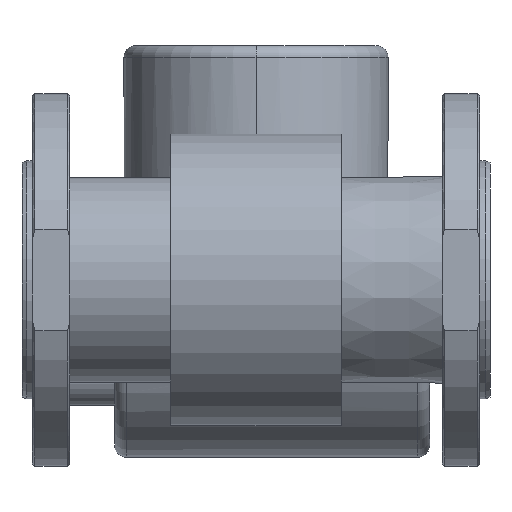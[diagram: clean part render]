
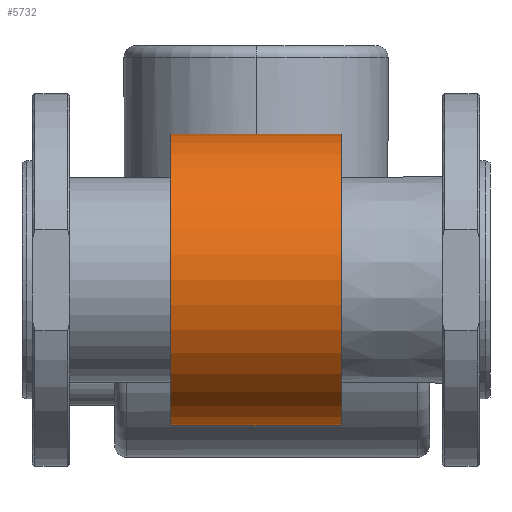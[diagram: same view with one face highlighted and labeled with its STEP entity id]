
A CAD part, front view. The second image highlights one B-rep face of the part: STEP entity #5732.
In plain terms, the highlighted cylindrical face has radius 62.5 mm (diameter 125 mm), a partial arc.
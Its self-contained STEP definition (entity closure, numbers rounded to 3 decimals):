
#489 = EDGE_CURVE ( 'NONE', #9082, #4652, #2526, .T. ) ;
#608 = AXIS2_PLACEMENT_3D ( 'NONE', #6694, #1731, #3796 ) ;
#621 = CARTESIAN_POINT ( 'NONE',  ( 36.5, 0., -62.5 ) ) ;
#846 = CARTESIAN_POINT ( 'NONE',  ( 36.5, 0., 0. ) ) ;
#912 = VERTEX_POINT ( 'NONE', #621 ) ;
#990 = CARTESIAN_POINT ( 'NONE',  ( 112.963, 0., 62.5 ) ) ;
#1078 = CARTESIAN_POINT ( 'NONE',  ( 112.963, 0., -62.5 ) ) ;
#1731 = DIRECTION ( 'NONE',  ( 1., 0., 0. ) ) ;
#2332 = EDGE_CURVE ( 'NONE', #2969, #912, #7594, .T. ) ;
#2526 = CIRCLE ( 'NONE', #608, 62.5 ) ;
#2600 = FACE_OUTER_BOUND ( 'NONE', #6682, .T. ) ;
#2969 = VERTEX_POINT ( 'NONE', #6611 ) ;
#3042 = DIRECTION ( 'NONE',  ( 0., 0., -1. ) ) ;
#3065 = VECTOR ( 'NONE', #6372, 1000. ) ;
#3230 = DIRECTION ( 'NONE',  ( 0., 0., -1. ) ) ;
#3269 = AXIS2_PLACEMENT_3D ( 'NONE', #6048, #9010, #3230 ) ;
#3509 = LINE ( 'NONE', #1078, #3065 ) ;
#3749 = DIRECTION ( 'NONE',  ( 1., 0., 0. ) ) ;
#3796 = DIRECTION ( 'NONE',  ( 0., 0., -1. ) ) ;
#4382 = ORIENTED_EDGE ( 'NONE', *, *, #2332, .F. ) ;
#4652 = VERTEX_POINT ( 'NONE', #8226 ) ;
#4747 = EDGE_CURVE ( 'NONE', #9082, #2969, #5912, .T. ) ;
#4896 = ORIENTED_EDGE ( 'NONE', *, *, #489, .T. ) ;
#5314 = ORIENTED_EDGE ( 'NONE', *, *, #4747, .F. ) ;
#5732 = ADVANCED_FACE ( 'NONE', ( #2600 ), #6224, .T. ) ;
#5912 = LINE ( 'NONE', #990, #8990 ) ;
#6048 = CARTESIAN_POINT ( 'NONE',  ( 112.963, 0., 0. ) ) ;
#6224 = CYLINDRICAL_SURFACE ( 'NONE', #3269, 62.5 ) ;
#6372 = DIRECTION ( 'NONE',  ( 1., 0., 0. ) ) ;
#6611 = CARTESIAN_POINT ( 'NONE',  ( 36.5, 0., 62.5 ) ) ;
#6682 = EDGE_LOOP ( 'NONE', ( #5314, #4896, #8171, #4382 ) ) ;
#6694 = CARTESIAN_POINT ( 'NONE',  ( -36.5, 0., 0. ) ) ;
#7100 = AXIS2_PLACEMENT_3D ( 'NONE', #846, #3749, #3042 ) ;
#7365 = EDGE_CURVE ( 'NONE', #4652, #912, #3509, .T. ) ;
#7594 = CIRCLE ( 'NONE', #7100, 62.5 ) ;
#8171 = ORIENTED_EDGE ( 'NONE', *, *, #7365, .T. ) ;
#8226 = CARTESIAN_POINT ( 'NONE',  ( -36.5, 0., -62.5 ) ) ;
#8256 = DIRECTION ( 'NONE',  ( 1., 0., 0. ) ) ;
#8967 = CARTESIAN_POINT ( 'NONE',  ( -36.5, 0., 62.5 ) ) ;
#8990 = VECTOR ( 'NONE', #8256, 1000. ) ;
#9010 = DIRECTION ( 'NONE',  ( 1., 0., 0. ) ) ;
#9082 = VERTEX_POINT ( 'NONE', #8967 ) ;
